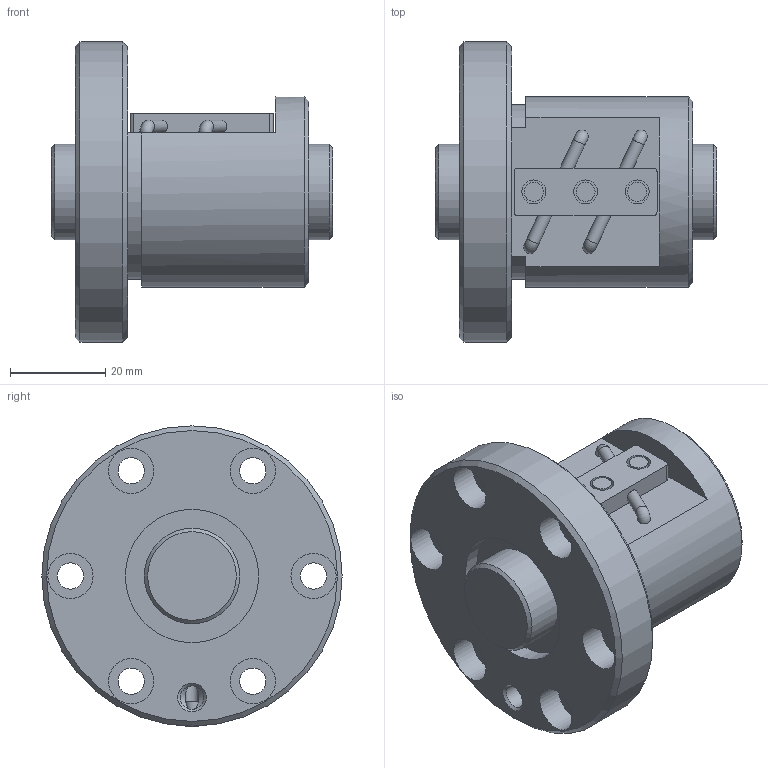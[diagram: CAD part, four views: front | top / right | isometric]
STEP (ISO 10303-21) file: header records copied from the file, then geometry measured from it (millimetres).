
FILE_DESCRIPTION(/* description */ ('STEP AP203'),/* implementation_level */ '2;1');
FILE_NAME(/* name */ 'BNF2004V-5RRG1+59LC0_000_rev',/* time_stamp */ '2024-08-06T07:28:01+02:00',/* author */ ('License CC BY-ND 4.0'),/* organization */ ('CADENAS'),/* preprocessor_version */ 'ST-DEVELOPER v19.3',/* originating_system */ 'PARTsolutions',/* authorisation */ ' ');
FILE_SCHEMA (('CONFIG_CONTROL_DESIGN'));
Length unit declared in the file: millimetre
Products named in the file (3): BNF2004V-5RRG1+59LC0_000_rev; BNF 2004-5RR000 Shaft; BNF 2004-5RR Nut
Assembly tree (2 placements, depth 2):
  BNF2004V-5RRG1+59LC0_000_rev
    BNF 2004-5RR000 Shaft
    BNF 2004-5RR Nut
Bounding box: 59 x 63 x 63 mm (x, y, z)
Volume: 75318 mm3; surface area: 22417.5 mm2
Topology: 2 solids, 2 shells, 78 faces, 172 edges, 113 vertices
Faces by surface type: cylinder 37, plane 29, cone 8, torus 4
Full cylindrical faces by diameter (mm): 2.665 x4, 2.75 x2, 4 x3, 4.917 x1, 5 x3, 5.5 x6, 9.5 x6, 20 x2, 28 x2, 40 x1, 63 x1
Entity records: 1991 total; most frequent: DIRECTION 352, CARTESIAN_POINT 341, ORIENTED_EDGE 230, AXIS2_PLACEMENT_3D 164, EDGE_LOOP 160, FACE_BOUND 160, EDGE_CURVE 115, VERTEX_POINT 99
